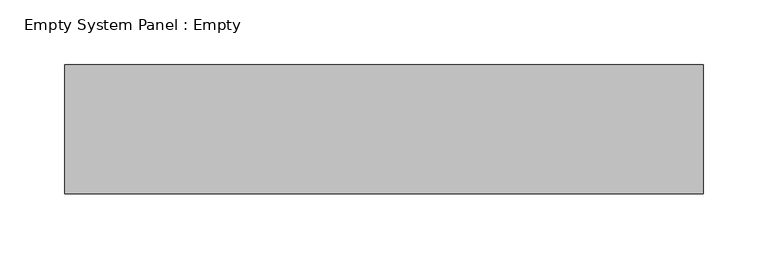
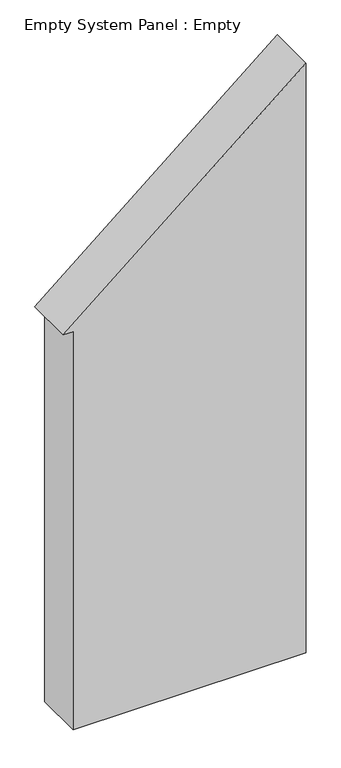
"""IFC4 building model written with IfcOpenShell, lengths in millimetres: plate geometry, Empty System Panel : Empty."""

import ifcopenshell
import ifcopenshell.guid

model = None  # the IFC model being written
_history = None  # IfcOwnerHistory: only IFC2X3 demands one
_inside = {}  # id of a spatial element -> (the spatial element, [elements in it])
_under = {}  # id of a project, library or spatial element -> (it, [spatial elements below it])
_declared = {}  # id of a project -> (the project, [libraries it declares])
_typed = {}  # id of a type object -> (the type object, [elements of that type])
_made_of = {}  # id of a material, layer set ... -> (it, [elements and type objects made of it])


def new_model(schema):
    """Start an empty IFC model of exactly this schema.

    Asked for "IFC4X3", IfcOpenShell would pick the latest addendum, in which some entities
    have other attributes; the version numbers below select the first issue.
    IFC2X3 requires an IfcOwnerHistory on every rooted entity: one is made here for all.
    """
    global model, _history
    if schema == "IFC4X3":
        model = ifcopenshell.file(schema_version=(4, 3, 0, 0))
    else:
        model = ifcopenshell.file(schema=schema)
    _inside.clear()
    _under.clear()
    _declared.clear()
    _typed.clear()
    _made_of.clear()
    _history = None
    if model.schema == "IFC2X3":
        org = make("IfcOrganization", Name="unknown")
        user = make(
            "IfcPersonAndOrganization",
            ThePerson=make("IfcPerson", FamilyName="unknown"),
            TheOrganization=org,
        )
        app = make(
            "IfcApplication",
            ApplicationDeveloper=org,
            Version="unknown",
            ApplicationFullName="unknown",
            ApplicationIdentifier="unknown",
        )
        _history = make(
            "IfcOwnerHistory",
            OwningUser=user,
            OwningApplication=app,
            ChangeAction="ADDED",
            CreationDate=0,
        )
    return model


def make(cls, **values):
    """One entity of the class cls with the attributes given. An attribute that is None is left unset."""
    return model.create_entity(
        cls, **{name: value for name, value in values.items() if value is not None}
    )


def rooted(cls, **values):
    """An entity with a GlobalId (a new one), such as an element, a storey or a relation."""
    return make(cls, GlobalId=ifcopenshell.guid.new(), OwnerHistory=_history, **values)


def si_unit(unit_type, name, prefix=None):
    """IfcSIUnit, for example si_unit("LENGTHUNIT", "METRE", prefix="MILLI")."""
    return make("IfcSIUnit", UnitType=unit_type, Prefix=prefix, Name=name)


def assignment(units):
    """IfcUnitAssignment: the units of a project."""
    return None if units is None else make("IfcUnitAssignment", Units=units)


def point(xyz):
    """IfcCartesianPoint."""
    return None if xyz is None else make("IfcCartesianPoint", Coordinates=xyz)


def direction(xyz):
    """IfcDirection."""
    return None if xyz is None else make("IfcDirection", DirectionRatios=xyz)


def frame(location, z_axis=None, x_axis=None):
    """IfcAxis2Placement3D, a coordinate frame: its origin and axes. An axis left out is left unset."""
    return make(
        "IfcAxis2Placement3D",
        Location=point(location),
        Axis=direction(z_axis),
        RefDirection=direction(x_axis),
    )


def origin():
    """The frame at (0, 0, 0) with its axes left unset."""
    return frame((0.0, 0.0, 0.0))


def place(relative_to, where):
    """IfcLocalPlacement: puts the frame where relative to a parent placement (None: the world)."""
    return make(
        "IfcLocalPlacement", PlacementRelTo=relative_to, RelativePlacement=where
    )


def context(
    kind, dimensions, precision=None, world=None, true_north=None, identifier=None
):
    """IfcGeometricRepresentationContext, for example the 3D "Model" context."""
    return make(
        "IfcGeometricRepresentationContext",
        ContextIdentifier=identifier,
        ContextType=kind,
        CoordinateSpaceDimension=dimensions,
        Precision=precision,
        WorldCoordinateSystem=world,
        TrueNorth=true_north,
    )


def project(units=None, contexts=None):
    """IfcProject with its units and contexts."""
    return rooted(
        "IfcProject",
        Name="project",
        RepresentationContexts=contexts,
        UnitsInContext=assignment(units),
    )


def spatial(cls, under=None, at=None, **own):
    """A site, building, storey or space (cls), placed at a placement, below another one or the project."""
    s = rooted(cls, ObjectPlacement=at, **own)
    if under is not None:
        _under.setdefault(under.id(), (under, []))[1].append(s)
    return s


def polyline(points):
    """IfcPolyline through the points."""
    return make("IfcPolyline", Points=[point(p) for p in points])


def outline(outer, holes=None, kind="AREA"):
    """IfcArbitraryClosedProfileDef: a profile drawn as a closed curve; with holes, ...WithVoids."""
    if holes is None:
        return make("IfcArbitraryClosedProfileDef", ProfileType=kind, OuterCurve=outer)
    return make(
        "IfcArbitraryProfileDefWithVoids",
        ProfileType=kind,
        OuterCurve=outer,
        InnerCurves=holes,
    )


def extrude(swept, where, along, depth):
    """IfcExtrudedAreaSolid: the profile swept, set in the frame where, extruded along a direction by depth."""
    return make(
        "IfcExtrudedAreaSolid",
        SweptArea=swept,
        Position=where,
        ExtrudedDirection=direction(along),
        Depth=depth,
    )


def shape(context_of_items, identifier, shape_type, items):
    """IfcShapeRepresentation: the items that make up one representation, for example the "Body"."""
    return make(
        "IfcShapeRepresentation",
        ContextOfItems=context_of_items,
        RepresentationIdentifier=identifier,
        RepresentationType=shape_type,
        Items=items,
    )


def source(mapping_origin, context_of_items, identifier, shape_type, items):
    """IfcRepresentationMap: a shape defined once, which mapped items show again and again."""
    return make(
        "IfcRepresentationMap",
        MappingOrigin=mapping_origin,
        MappedRepresentation=shape(context_of_items, identifier, shape_type, items),
    )


def transform(
    local_origin,
    x_axis=None,
    y_axis=None,
    z_axis=None,
    scale=None,
    scale2=None,
    scale3=None,
    uniform=True,
):
    """IfcCartesianTransformationOperator3D, or its non-uniform kind. x_axis, y_axis, z_axis: its Axis1, 2, 3."""
    if uniform:
        return make(
            "IfcCartesianTransformationOperator3D",
            Axis1=direction(x_axis),
            Axis2=direction(y_axis),
            LocalOrigin=point(local_origin),
            Scale=scale,
            Axis3=direction(z_axis),
        )
    return make(
        "IfcCartesianTransformationOperator3DnonUniform",
        Axis1=direction(x_axis),
        Axis2=direction(y_axis),
        LocalOrigin=point(local_origin),
        Scale=scale,
        Axis3=direction(z_axis),
        Scale2=scale2,
        Scale3=scale3,
    )


def mapped(mapping_source, mapping_target):
    """IfcMappedItem: shows the shape of a source again, moved by a transform."""
    return make(
        "IfcMappedItem", MappingSource=mapping_source, MappingTarget=mapping_target
    )


def made_of(thing, what):
    """Note that an element or type object is made of a material, layer set ...; save() writes the relation."""
    if what is not None:
        _made_of.setdefault(what.id(), (what, []))[1].append(thing)
    return thing


def element(
    cls,
    number,
    at=None,
    inside=None,
    cuts=None,
    type_object=None,
    material=None,
    context=None,
    identifier="Body",
    shape_type=None,
    held_by="IfcProductDefinitionShape",
    body=None,
    shapes=None,
    **own,
):
    """One element of the class cls, such as IfcWall. Its Tag is "e" and its number.

    at: its placement. inside: the storey or other place that contains it. cuts: it is an
    opening in that element (IfcRelVoidsElement). A single representation is given by context,
    identifier, shape_type and body (its items); several are given by shapes. held_by: the class
    of the entity that holds the representations. save() writes the other relations.
    """
    e = rooted(cls, Tag="e%d" % number, ObjectPlacement=at, **own)
    if body is not None:
        shapes = [shape(context, identifier, shape_type, body)]
    if shapes is not None:
        e.Representation = make(held_by, Representations=shapes)
    if inside is not None:
        _inside.setdefault(inside.id(), (inside, []))[1].append(e)
    if cuts is not None:
        rooted(
            "IfcRelVoidsElement", RelatingBuildingElement=cuts, RelatedOpeningElement=e
        )
    if type_object is not None:
        _typed.setdefault(type_object.id(), (type_object, []))[1].append(e)
    return made_of(e, material)


def aggregate(whole, parts):
    """IfcRelAggregates: a whole, such as a stair, and the parts it consists of."""
    return rooted("IfcRelAggregates", RelatingObject=whole, RelatedObjects=parts)


def save(model, path):
    """Write the relations noted so far, then the file.

    IfcRelAggregates (storeys below a building ...), IfcRelContainedInSpatialStructure (elements
    in a storey), IfcRelDefinesByType, IfcRelAssociatesMaterial and IfcRelDeclares: one each for
    every whole, place, type object, material and project.
    """
    for whole, parts in _under.values():
        aggregate(whole, parts)
    for where, things in _inside.values():
        rooted(
            "IfcRelContainedInSpatialStructure",
            RelatedElements=things,
            RelatingStructure=where,
        )
    for kind, things in _typed.values():
        rooted("IfcRelDefinesByType", RelatedObjects=things, RelatingType=kind)
    for what, things in _made_of.values():
        rooted("IfcRelAssociatesMaterial", RelatedObjects=things, RelatingMaterial=what)
    for by, libraries in _declared.values():
        rooted("IfcRelDeclares", RelatingContext=by, RelatedDefinitions=libraries)
    model.write(path)


def empty_system_panel_empty_abfd1198(model_context):
    return source(origin(), model_context, "Body", "SweptSolid", [
        extrude(outline(polyline([(0.0, -227.2855469), (0.0, 247.2855469), (1268.1855841, 247.2855469), (856.5543809, -247.2855469), (856.5543809, -227.2855469), (0.0, -227.2855469)])), frame((0.0, -50.0, 0.0), z_axis=(0.0, 1.0, 0.0), x_axis=(0.0, 0.0, 1.0)), (0.0, 0.0, 1.0), 100.0),
    ])


if __name__ == "__main__":
    model = new_model("IFC4")
    model_context = context("Model", 3, world=origin())
    ifc_project = project(units=[si_unit("LENGTHUNIT", "METRE", prefix="MILLI")], contexts=[model_context])
    site = spatial("IfcSite", under=ifc_project)
    building = spatial("IfcBuilding", under=site)
    placement = place(None, origin())
    empty_system_panel_empty_shape = empty_system_panel_empty_abfd1198(model_context)
    element("IfcPlate", 1, ObjectType="Empty System Panel : Empty", at=placement, inside=building, context=model_context, shape_type="MappedRepresentation", body=[
        mapped(empty_system_panel_empty_shape, transform((0.0, 0.0, 0.0), x_axis=(1.0, 0.0, 0.0), y_axis=(0.0, 1.0, 0.0), z_axis=(0.0, 0.0, 1.0))),
    ])
    save(model, "model.ifc")
